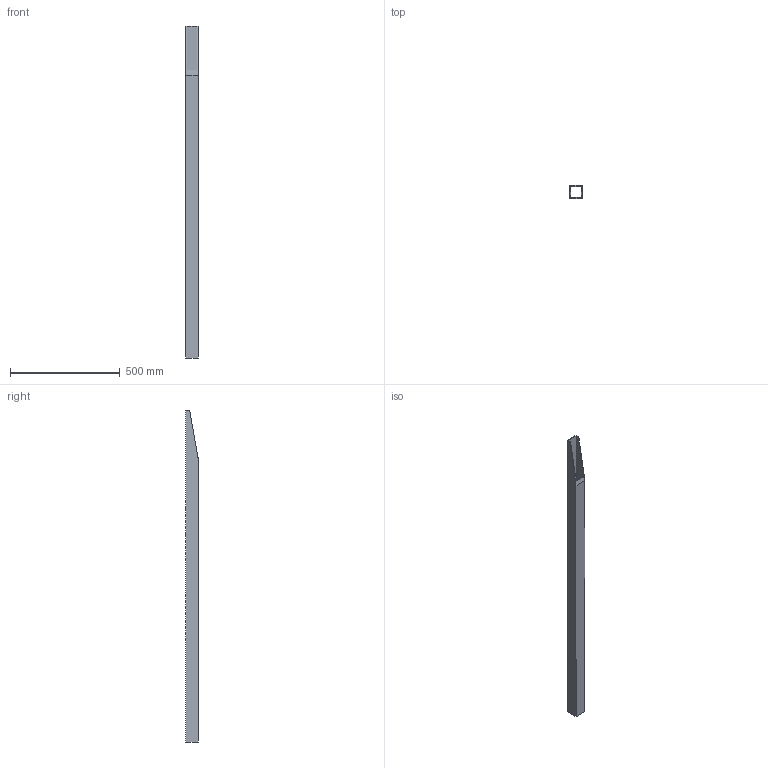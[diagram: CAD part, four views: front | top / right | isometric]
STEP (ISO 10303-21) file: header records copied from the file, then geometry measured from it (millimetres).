
FILE_DESCRIPTION(('golf model'),'2;1');
FILE_NAME('golf','',(''),(''),'golf_step_io','golf','');
FILE_SCHEMA(('AUTOMOTIVE_DESIGN { 1 0 10303 214 1 1 1 1 }'));
Length unit declared in the file: millimetre
Products named in the file (2): ASSEMBLY; floor_frame.rear_post_2
Assembly tree (1 placements, depth 2):
  ASSEMBLY
    floor_frame.rear_post_2
Bounding box: 58 x 58 x 1515.55 mm (x, y, z)
Volume: 1231269.4 mm3; surface area: 619730.5 mm2
Topology: 1 solids, 1 shells, 11 faces, 30 edges, 20 vertices
Faces by surface type: plane 11
Entity records: 382 total; most frequent: CARTESIAN_POINT 63, ORIENTED_EDGE 60, DIRECTION 56, VECTOR 30, LINE 30, EDGE_CURVE 30, VERTEX_POINT 20, AXIS2_PLACEMENT_3D 13
